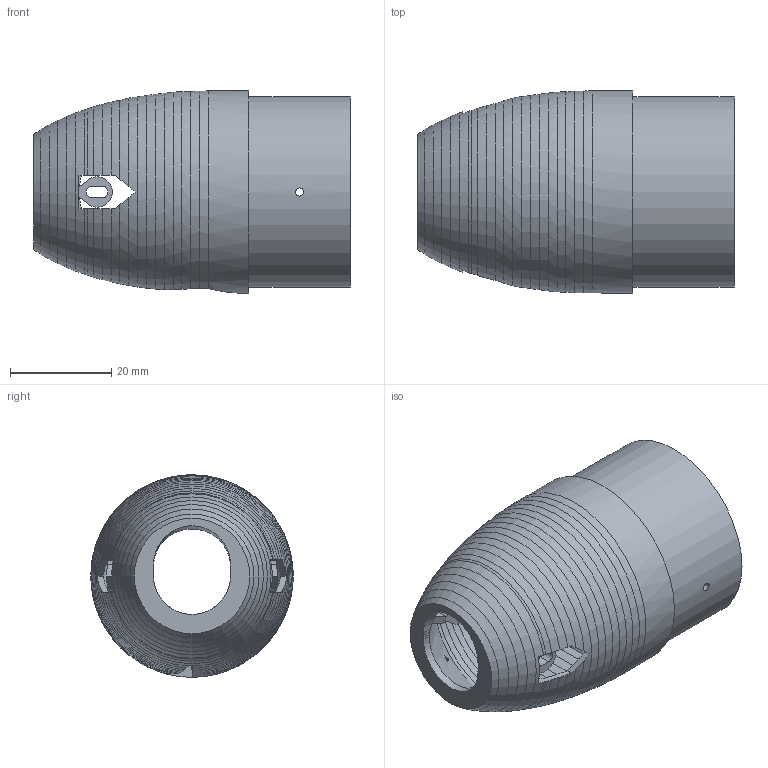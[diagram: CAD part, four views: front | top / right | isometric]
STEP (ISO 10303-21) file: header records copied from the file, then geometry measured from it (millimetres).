
FILE_DESCRIPTION(('SkyG Speed 90B - revision C6B-5 - 2026-10-08','N0M-nose-micro-camera'),'2;1');
FILE_NAME('N0M-nose-micro-camera_C6B-5','2026-10-08T10:12:27',('Author'),( 'Open CASCADE'),'Open CASCADE STEP processor 7.9','Open CASCADE 7.9' ,'Unknown');
FILE_SCHEMA(('AUTOMOTIVE_DESIGN { 1 0 10303 214 1 1 1 1 }'));
Length unit declared in the file: millimetre
Products named in the file (1): N0M-nose-micro-camera C6B-5
Bounding box: 62.5 x 40 x 40 mm (x, y, z)
Volume: 13746.8 mm3; surface area: 15330.7 mm2
Topology: 1 solids, 1 shells, 281 faces, 816 edges, 536 vertices
Faces by surface type: plane 152, cone 62, cylinder 35, bspline 32
Full cylindrical faces by diameter (mm): 1.6 x2, 33.8 x1, 37.7 x1, 40 x1
Entity records: 23122 total; most frequent: CARTESIAN_POINT 8291, DIRECTION 2436, ORIENTED_EDGE 1632, PCURVE 1632, DEFINITIONAL_REPRESENTATION 1632, LINE 1043, VECTOR 1043, EDGE_CURVE 816
